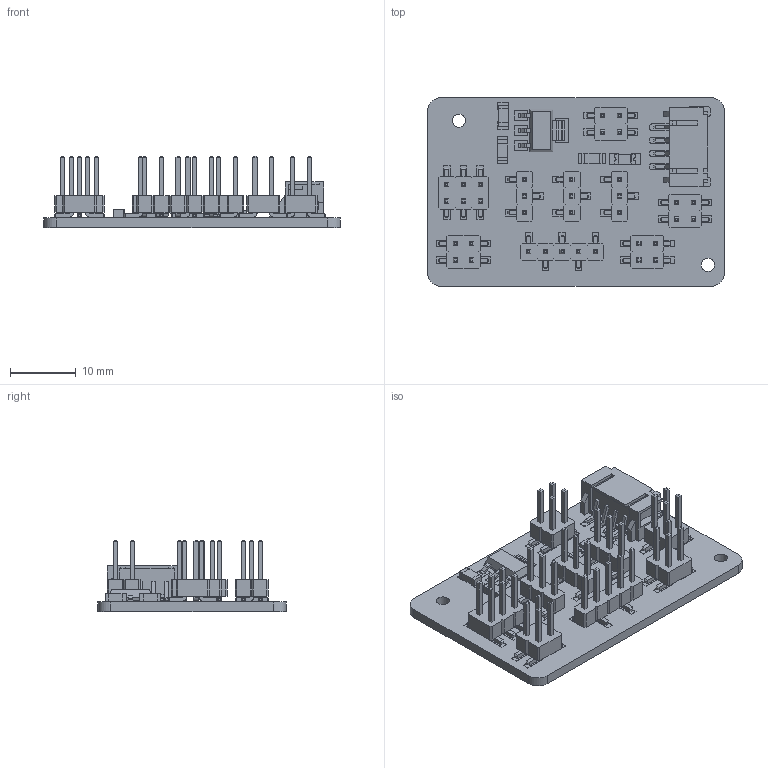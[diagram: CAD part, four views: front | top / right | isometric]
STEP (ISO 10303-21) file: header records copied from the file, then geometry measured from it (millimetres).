
FILE_DESCRIPTION(('KiCad electronic assembly'),'2;1');
FILE_NAME('Final_Project_Top_Board.step','2025-05-29T23:04:00',('Pcbnew' ),('Kicad'),'Open CASCADE STEP processor 7.8', 'KiCad to STEP converter','Unknown');
FILE_SCHEMA(('AUTOMOTIVE_DESIGN { 1 0 10303 214 1 1 1 1 }'));
Length unit declared in the file: millimetre
Products named in the file (23): Final_Project_Top_Board 1; JST - PH - SMD (R) - 4Pin - 2.00mm; PinHeader_2x02_P2.54mm_Vertical_SMD; R_1206; Ceramic; Contacts; Contacts (Mirror #1); Overcoat; PinHeader_1x03_P2.54mm_Vertical_SMD_Pin1Right; LED-1206; Base; Emmiter; Contact_1; Contact_2; PinHeader_2x03_P2.54mm_Vertical_SMD; SOT223; Capacitor-1206; Body; Contact; ContactClone; PinHeader_1x05_P2.54mm_Vertical_SMD_Pin1Left; Final_Project_Top_Board_pad; Final_Project_Top_Board_PCB
Assembly tree (28 placements, depth 3):
  Final_Project_Top_Board 1
    JST - PH - SMD (R) - 4Pin - 2.00mm
    PinHeader_2x02_P2.54mm_Vertical_SMD  x4
    R_1206
      Ceramic
      Contacts
      Contacts (Mirror #1)
      Overcoat
    PinHeader_1x03_P2.54mm_Vertical_SMD_Pin1Right  x3
    LED-1206
      Base
      Emmiter
      Contact_1
      Contact_2
    PinHeader_2x03_P2.54mm_Vertical_SMD
    SOT223
    Capacitor-1206  x2
      Body
      Contact
      ContactClone
    PinHeader_1x05_P2.54mm_Vertical_SMD_Pin1Left
    Final_Project_Top_Board_pad
    Final_Project_Top_Board_PCB
Bounding box: 45.25 x 28.75 x 10.89 mm (x, y, z)
Volume: 2893.5 mm3; surface area: 5741.5 mm2
Topology: 84 solids, 104 shells, 1816 faces, 4261 edges, 2730 vertices
Faces by surface type: plane 1688, cylinder 88, bspline 40
Full cylindrical faces by diameter (mm): 2 x2
Entity records: 44777 total; most frequent: CARTESIAN_POINT 8464, ORIENTED_EDGE 6194, DIRECTION 5601, EDGE_CURVE 3097, LINE 2687, VECTOR 2687, VERTEX_POINT 2002, AXIS2_PLACEMENT_3D 1457
